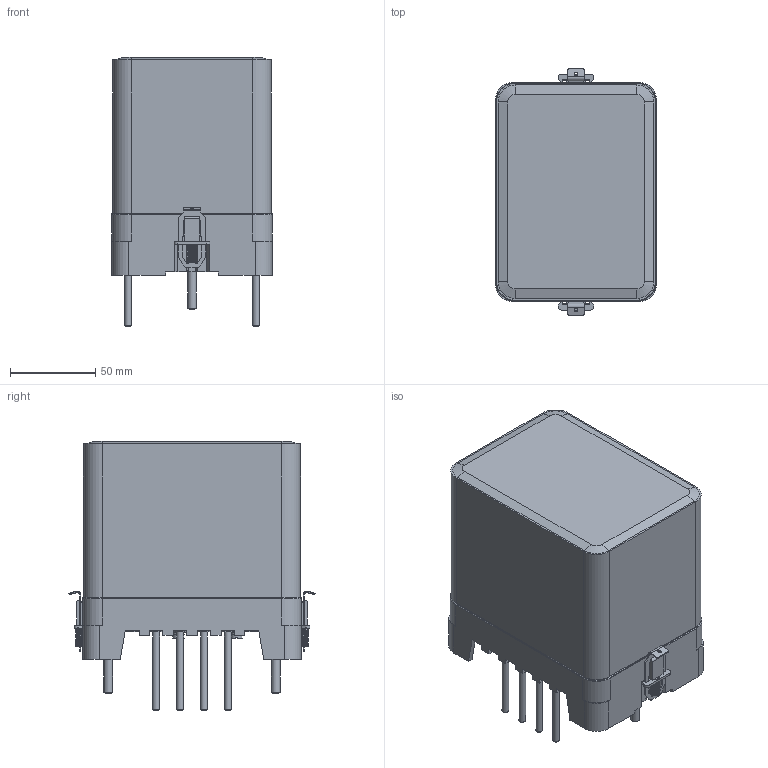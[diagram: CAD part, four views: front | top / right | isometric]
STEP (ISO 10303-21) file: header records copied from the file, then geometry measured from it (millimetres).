
FILE_DESCRIPTION(('STEP AP214'), '1');
FILE_NAME('ÐÂ215Ê, ÐÂ225Ê, ÐÂ235Ê, ÐÂ245Ê ç.ï.øï', '', ('UNSPECIFIED'), ('UNSPECIFIED'), 'ASCON STEP Converter 1.3', 'ASCON Math Kernel', '');
FILE_SCHEMA(('AUTOMOTIVE_DESIGN { 1 0 10303 214 3 1 1}'));
Length unit declared in the file: millimetre
Bounding box: 94 x 144 x 157.5 mm (x, y, z)
Volume: 227046.2 mm3; surface area: 158781.8 mm2
Topology: 2 solids, 2 shells, 1015 faces, 2556 edges, 1573 vertices
Faces by surface type: plane 573, cylinder 288, torus 79, cone 39, sphere 30, bspline 6
Full cylindrical faces by diameter (mm): 2 x2, 3.3 x8, 3.5 x2, 4 x19, 4.3 x3, 4.5 x5, 5 x2, 5.5 x18, 8 x3, 11 x2
Entity records: 46474 total; most frequent: CARTESIAN_POINT 14272, DIRECTION 5068, ORIENTED_EDGE 4820, EDGE_CURVE 2410, AXIS2_PLACEMENT_3D 1749, LINE 1570, VECTOR 1570, VERTEX_POINT 1567
